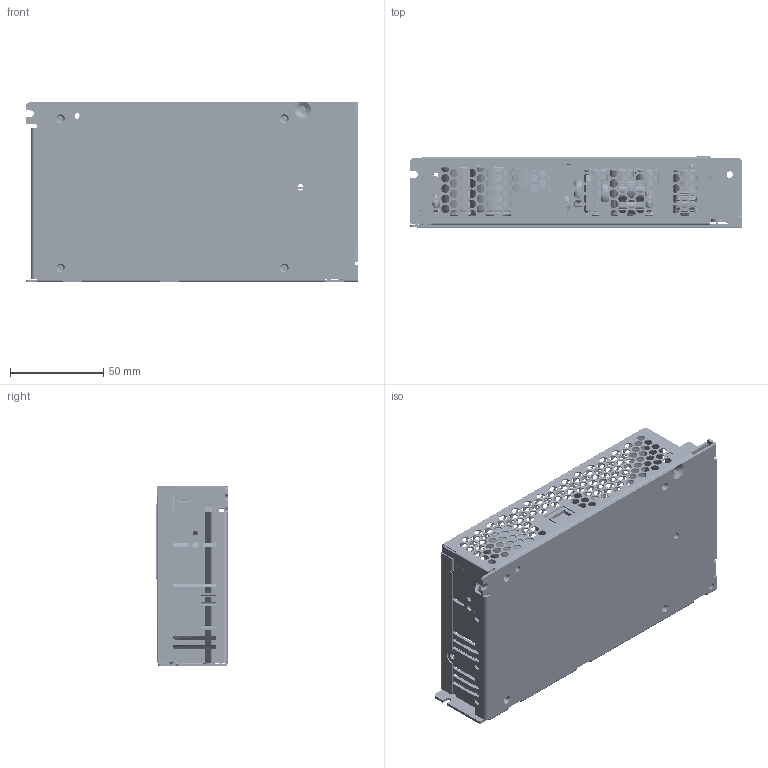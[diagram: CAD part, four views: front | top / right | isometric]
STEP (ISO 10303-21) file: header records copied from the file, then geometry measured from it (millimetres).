
FILE_DESCRIPTION((''),'2;1');
FILE_NAME('ASM-100W_ASM','2013-05-08T',('ERIC.YP.CHEN'),(''),'PRO/ENGINEER BY PARAMETRIC TECHNOLOGY CORPORATION, 2010280','PRO/ENGINEER BY PARAMETRIC TECHNOLOGY CORPORATION, 2010280','');
FILE_SCHEMA(('CONFIG_CONTROL_DESIGN'));
Products named in the file (29): CHASSIS-100W-0719-3MM; STUD_6-32_L4_5_12; CHASSIS-100W_ASM; 100W-COVER-0719; PWB-100W-0118; CONNECTOR_04_12_1; CONN_7P_ASSY_12_ASM_1_ASM; INSULATOR; D101; INSULATOR_PWB; CON4_BODY; VR550_12_1; LED350_12_1; 147302710242_C1; 140141521040_C111; HSK_BD1; 200112120071_BD1; SW1; NTC_HOLDER; TUBE_Q1; CLIP; 2875106600_FL2; 2875286400_FL1; L101_1; L101_2; 0915081616_NTC1; CY2; FUNCTION_LABEL; ASM-100W_ASM
Assembly tree (40 placements, depth 3):
  ASM-100W_ASM
    CHASSIS-100W_ASM
      CHASSIS-100W-0719-3MM
      STUD_6-32_L4_5_12  x2
    100W-COVER-0719
    PWB-100W-0118
    CONN_7P_ASSY_12_ASM_1_ASM
      CONNECTOR_04_12_1
    INSULATOR
    D101  x3
    INSULATOR_PWB
    CON4_BODY
    VR550_12_1
    LED350_12_1
    147302710242_C1  x2
    140141521040_C111  x4
    HSK_BD1
    200112120071_BD1
    SW1
    NTC_HOLDER
    TUBE_Q1
    CLIP
    2875106600_FL2
    2875286400_FL1
    L101_1
    L101_2
    0915081616_NTC1  x2
    CY2  x5
    FUNCTION_LABEL
Bounding box: 178 x 38.15 x 97 mm (x, y, z)
Volume: 186708.1 mm3; surface area: 229133.1 mm2
Topology: 53 solids, 63 shells, 4942 faces, 12562 edges, 7707 vertices
Faces by surface type: cylinder 2439, plane 1588, torus 744, bspline 87, cone 36, revolution 30, sphere 18
Entity records: 173348 total; most frequent: CARTESIAN_POINT 52779, DIRECTION 26036, ORIENTED_EDGE 24312, EDGE_CURVE 12158, AXIS2_PLACEMENT_3D 10010, VERTEX_POINT 7475, EDGE_LOOP 6161, VECTOR 6010
